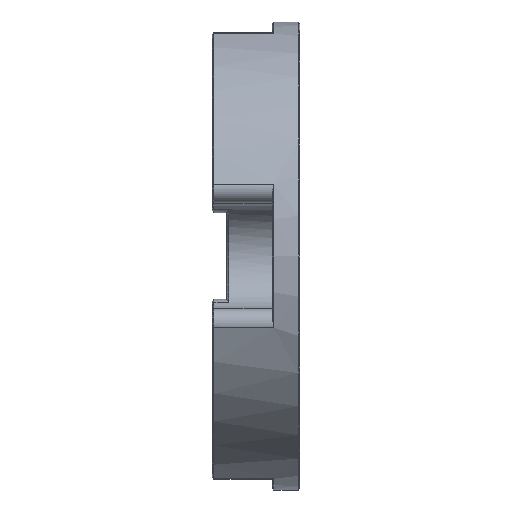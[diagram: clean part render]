
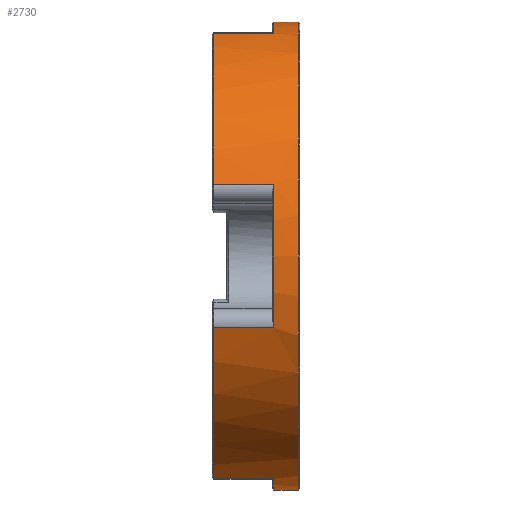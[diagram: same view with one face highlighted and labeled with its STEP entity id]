
A CAD part, left-side view. The second image highlights one B-rep face of the part: STEP entity #2730.
In plain terms, the highlighted cylindrical face has radius 15.975 mm (diameter 31.95 mm), a partial arc.
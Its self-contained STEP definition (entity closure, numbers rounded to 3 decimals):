
#507 = DIRECTION ( 'NONE',  ( 0., 0., 1. ) ) ;
#634 = CYLINDRICAL_SURFACE ( 'NONE', #12339, 15.975 ) ;
#920 = CARTESIAN_POINT ( 'NONE',  ( -15.203, -1.225, -4.907 ) ) ;
#1102 = VERTEX_POINT ( 'NONE', #10800 ) ;
#1173 = CIRCLE ( 'NONE', #8751, 15.975 ) ;
#1454 = ORIENTED_EDGE ( 'NONE', *, *, #3440, .T. ) ;
#1584 = CARTESIAN_POINT ( 'NONE',  ( -4.907, 3., -15.203 ) ) ;
#1783 = DIRECTION ( 'NONE',  ( 0., 0., 1. ) ) ;
#1831 = EDGE_CURVE ( 'NONE', #14257, #13324, #5999, .T. ) ;
#2149 = CARTESIAN_POINT ( 'NONE',  ( 0., -1.225, 0. ) ) ;
#2263 = LINE ( 'NONE', #15714, #4051 ) ;
#2275 = CARTESIAN_POINT ( 'NONE',  ( 0., 2.875, 0. ) ) ;
#2532 = AXIS2_PLACEMENT_3D ( 'NONE', #18390, #20170, #20315 ) ;
#2687 = DIRECTION ( 'NONE',  ( 0., -1., 0. ) ) ;
#2730 = ADVANCED_FACE ( 'NONE', ( #4471 ), #634, .T. ) ;
#2959 = DIRECTION ( 'NONE',  ( 0., -1., 0. ) ) ;
#2980 = CARTESIAN_POINT ( 'NONE',  ( -15.203, 3., 4.907 ) ) ;
#3438 = VERTEX_POINT ( 'NONE', #4206 ) ;
#3440 = EDGE_CURVE ( 'NONE', #15174, #9006, #1173, .T. ) ;
#3714 = VERTEX_POINT ( 'NONE', #15443 ) ;
#3948 = AXIS2_PLACEMENT_3D ( 'NONE', #2149, #8573, #15033 ) ;
#4051 = VECTOR ( 'NONE', #18632, 1000. ) ;
#4135 = AXIS2_PLACEMENT_3D ( 'NONE', #5134, #18151, #1783 ) ;
#4146 = DIRECTION ( 'NONE',  ( 0., -1., 0. ) ) ;
#4206 = CARTESIAN_POINT ( 'NONE',  ( -15.203, -1.225, 4.907 ) ) ;
#4403 = VERTEX_POINT ( 'NONE', #15139 ) ;
#4445 = DIRECTION ( 'NONE',  ( 0., 0., -1. ) ) ;
#4471 = FACE_OUTER_BOUND ( 'NONE', #13886, .T. ) ;
#4675 = DIRECTION ( 'NONE',  ( 0., 0., 1. ) ) ;
#4702 = VERTEX_POINT ( 'NONE', #17481 ) ;
#4856 = ORIENTED_EDGE ( 'NONE', *, *, #9492, .T. ) ;
#5045 = EDGE_CURVE ( 'NONE', #15833, #4403, #7914, .T. ) ;
#5134 = CARTESIAN_POINT ( 'NONE',  ( 0., -1.225, 0. ) ) ;
#5405 = ORIENTED_EDGE ( 'NONE', *, *, #5800, .T. ) ;
#5710 = LINE ( 'NONE', #16049, #18135 ) ;
#5800 = EDGE_CURVE ( 'NONE', #11060, #4702, #10166, .T. ) ;
#5999 = CIRCLE ( 'NONE', #4135, 15.975 ) ;
#6418 = CARTESIAN_POINT ( 'NONE',  ( 0., -1.225, 0. ) ) ;
#7544 = CARTESIAN_POINT ( 'NONE',  ( 0., 3., 0. ) ) ;
#7570 = VECTOR ( 'NONE', #2687, 1000. ) ;
#7914 = CIRCLE ( 'NONE', #2532, 15.975 ) ;
#8032 = DIRECTION ( 'NONE',  ( 0., -1., 0. ) ) ;
#8250 = ORIENTED_EDGE ( 'NONE', *, *, #1831, .T. ) ;
#8541 = EDGE_CURVE ( 'NONE', #3438, #9765, #11347, .T. ) ;
#8573 = DIRECTION ( 'NONE',  ( 0., -1., 0. ) ) ;
#8751 = AXIS2_PLACEMENT_3D ( 'NONE', #10666, #17147, #8783 ) ;
#8783 = DIRECTION ( 'NONE',  ( 0., 0., 1. ) ) ;
#9006 = VERTEX_POINT ( 'NONE', #14583 ) ;
#9492 = EDGE_CURVE ( 'NONE', #9006, #3438, #16703, .T. ) ;
#9579 = CARTESIAN_POINT ( 'NONE',  ( -4.907, 2.875, 15.203 ) ) ;
#9765 = VERTEX_POINT ( 'NONE', #920 ) ;
#10166 = CIRCLE ( 'NONE', #19805, 15.975 ) ;
#10454 = ORIENTED_EDGE ( 'NONE', *, *, #16697, .T. ) ;
#10465 = CARTESIAN_POINT ( 'NONE',  ( 0., -1.225, 15.975 ) ) ;
#10501 = ORIENTED_EDGE ( 'NONE', *, *, #8541, .T. ) ;
#10666 = CARTESIAN_POINT ( 'NONE',  ( 0., 2.875, 0. ) ) ;
#10760 = DIRECTION ( 'NONE',  ( 0., -1., 0. ) ) ;
#10800 = CARTESIAN_POINT ( 'NONE',  ( -4.907, -1.225, -15.203 ) ) ;
#11060 = VERTEX_POINT ( 'NONE', #13728 ) ;
#11347 = CIRCLE ( 'NONE', #3948, 15.975 ) ;
#11524 = AXIS2_PLACEMENT_3D ( 'NONE', #6418, #8032, #4675 ) ;
#11938 = LINE ( 'NONE', #21028, #20115 ) ;
#12339 = AXIS2_PLACEMENT_3D ( 'NONE', #7544, #10760, #4445 ) ;
#13324 = VERTEX_POINT ( 'NONE', #16566 ) ;
#13474 = LINE ( 'NONE', #1584, #18329 ) ;
#13624 = ORIENTED_EDGE ( 'NONE', *, *, #13675, .T. ) ;
#13626 = ORIENTED_EDGE ( 'NONE', *, *, #16629, .T. ) ;
#13675 = EDGE_CURVE ( 'NONE', #13324, #15174, #5710, .T. ) ;
#13728 = CARTESIAN_POINT ( 'NONE',  ( -15.203, 2.875, -4.907 ) ) ;
#13886 = EDGE_LOOP ( 'NONE', ( #16680, #8250, #13624, #1454, #4856, #10501, #10454, #5405, #13626, #18402, #17174, #16817 ) ) ;
#14134 = EDGE_CURVE ( 'NONE', #14257, #4403, #20751, .T. ) ;
#14257 = VERTEX_POINT ( 'NONE', #10465 ) ;
#14583 = CARTESIAN_POINT ( 'NONE',  ( -15.203, 2.875, 4.907 ) ) ;
#15033 = DIRECTION ( 'NONE',  ( 0., 0., 1. ) ) ;
#15139 = CARTESIAN_POINT ( 'NONE',  ( 0., -2.875, 15.975 ) ) ;
#15174 = VERTEX_POINT ( 'NONE', #9579 ) ;
#15443 = CARTESIAN_POINT ( 'NONE',  ( 0., -1.225, -15.975 ) ) ;
#15714 = CARTESIAN_POINT ( 'NONE',  ( 0., 3., -15.975 ) ) ;
#15833 = VERTEX_POINT ( 'NONE', #16900 ) ;
#16049 = CARTESIAN_POINT ( 'NONE',  ( -4.907, 3., 15.203 ) ) ;
#16181 = DIRECTION ( 'NONE',  ( 0., 1., 0. ) ) ;
#16532 = DIRECTION ( 'NONE',  ( 0., -1., 0. ) ) ;
#16566 = CARTESIAN_POINT ( 'NONE',  ( -4.907, -1.225, 15.203 ) ) ;
#16629 = EDGE_CURVE ( 'NONE', #4702, #1102, #13474, .T. ) ;
#16680 = ORIENTED_EDGE ( 'NONE', *, *, #14134, .F. ) ;
#16697 = EDGE_CURVE ( 'NONE', #9765, #11060, #11938, .T. ) ;
#16703 = LINE ( 'NONE', #2980, #7570 ) ;
#16817 = ORIENTED_EDGE ( 'NONE', *, *, #5045, .T. ) ;
#16900 = CARTESIAN_POINT ( 'NONE',  ( 0., -2.875, -15.975 ) ) ;
#17147 = DIRECTION ( 'NONE',  ( 0., -1., 0. ) ) ;
#17174 = ORIENTED_EDGE ( 'NONE', *, *, #20656, .T. ) ;
#17221 = CARTESIAN_POINT ( 'NONE',  ( 0., 3., 15.975 ) ) ;
#17481 = CARTESIAN_POINT ( 'NONE',  ( -4.907, 2.875, -15.203 ) ) ;
#17669 = VECTOR ( 'NONE', #4146, 1000. ) ;
#18135 = VECTOR ( 'NONE', #16181, 1000. ) ;
#18151 = DIRECTION ( 'NONE',  ( 0., -1., 0. ) ) ;
#18274 = CIRCLE ( 'NONE', #11524, 15.975 ) ;
#18329 = VECTOR ( 'NONE', #2959, 1000. ) ;
#18390 = CARTESIAN_POINT ( 'NONE',  ( 0., -2.875, 0. ) ) ;
#18402 = ORIENTED_EDGE ( 'NONE', *, *, #19282, .T. ) ;
#18632 = DIRECTION ( 'NONE',  ( 0., -1., 0. ) ) ;
#19127 = DIRECTION ( 'NONE',  ( 0., 1., 0. ) ) ;
#19282 = EDGE_CURVE ( 'NONE', #1102, #3714, #18274, .T. ) ;
#19805 = AXIS2_PLACEMENT_3D ( 'NONE', #2275, #16532, #507 ) ;
#20115 = VECTOR ( 'NONE', #19127, 1000. ) ;
#20170 = DIRECTION ( 'NONE',  ( 0., 1., 0. ) ) ;
#20315 = DIRECTION ( 'NONE',  ( 0., 0., 1. ) ) ;
#20656 = EDGE_CURVE ( 'NONE', #3714, #15833, #2263, .T. ) ;
#20751 = LINE ( 'NONE', #17221, #17669 ) ;
#21028 = CARTESIAN_POINT ( 'NONE',  ( -15.203, 3., -4.907 ) ) ;
